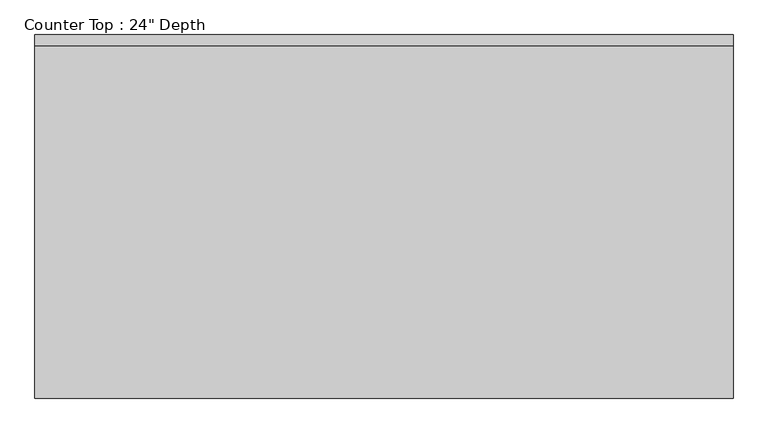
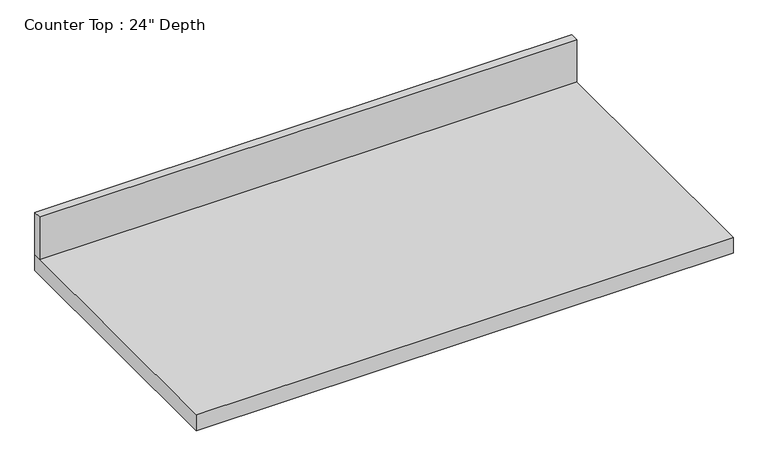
"""IFC4 building model written with IfcOpenShell, lengths in millimetres: furniture geometry."""

from ifc_helpers import new_model, si_unit, frame, origin, place, context, project, spatial, polyline, outline, extrude, source, transform, mapped, element, save


def furniture_e91ff8d8(model_context):
    return source(origin(), model_context, "Body", "SweptSolid", [
        extrude(outline(polyline([(-1200.4622951, 0.0), (18.7377049, 0.0), (18.7377049, -19.05), (-1200.4622951, -19.05), (-1200.4622951, 0.0)])), frame((0.0, 0.0, 914.4), z_axis=(0.0, 0.0, 1.0), x_axis=(1.0, 0.0, 0.0)), (0.0, 0.0, 1.0), 101.6),
        extrude(outline(polyline([(18.7377049, 0.0), (18.7377049, -635.0), (-1200.4622951, -635.0), (-1200.4622951, 0.0), (18.7377049, 0.0)])), frame((0.0, 0.0, 876.3), z_axis=(0.0, 0.0, 1.0), x_axis=(1.0, 0.0, 0.0)), (0.0, 0.0, 1.0), 38.1),
    ])


if __name__ == "__main__":
    model = new_model("IFC4")
    model_context = context("Model", 3, world=origin())
    ifc_project = project(units=[si_unit("LENGTHUNIT", "METRE", prefix="MILLI")], contexts=[model_context])
    site = spatial("IfcSite", under=ifc_project)
    building = spatial("IfcBuilding", under=site)
    placement = place(None, origin())
    furniture_shape = furniture_e91ff8d8(model_context)
    element("IfcFurniture", 1, ObjectType="Counter Top : 24\" Depth", at=placement, inside=building, context=model_context, shape_type="MappedRepresentation", body=[
        mapped(furniture_shape, transform((0.0, 0.0, 0.0), x_axis=(1.0, 0.0, 0.0), y_axis=(0.0, 1.0, 0.0), z_axis=(0.0, 0.0, 1.0))),
    ])
    save(model, "model.ifc")
